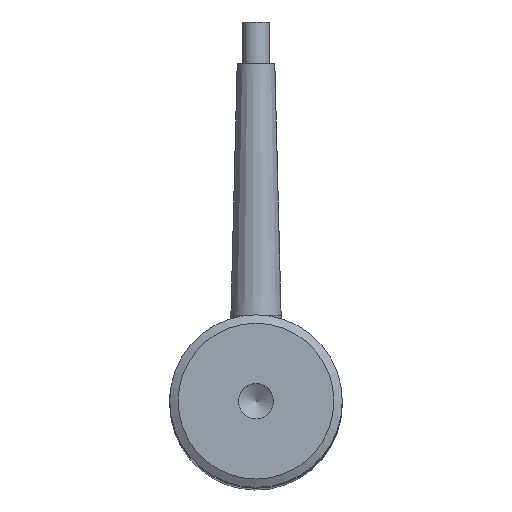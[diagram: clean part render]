
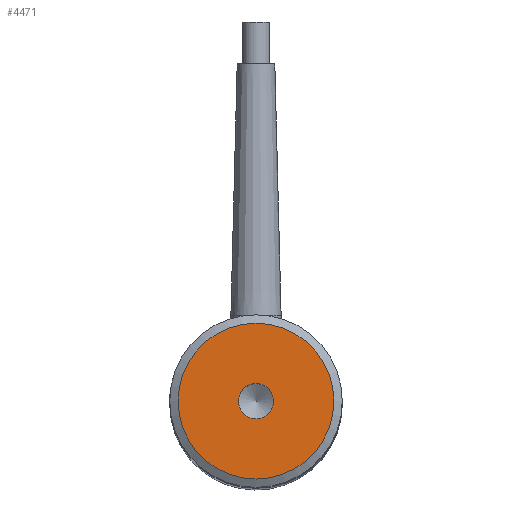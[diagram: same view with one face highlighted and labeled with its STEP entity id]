
A CAD part, top view. The second image highlights one B-rep face of the part: STEP entity #4471.
In plain terms, the highlighted planar face has unit normal (0, 0, 1) as drawn and (0, 0, -1) by its records, which use the part's own axes.
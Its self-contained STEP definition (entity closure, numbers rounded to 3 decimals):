
#361 = CIRCLE ( 'NONE', #7102, 9.3 ) ;
#1216 = DIRECTION ( 'NONE',  ( 0., 0., 1. ) ) ;
#1878 = VERTEX_POINT ( 'NONE', #6325 ) ;
#2028 = ORIENTED_EDGE ( 'NONE', *, *, #2853, .F. ) ;
#2052 = DIRECTION ( 'NONE',  ( 1., 0., 0. ) ) ;
#2568 = EDGE_CURVE ( 'NONE', #1878, #1878, #361, .T. ) ;
#2761 = PLANE ( 'NONE',  #3099 ) ;
#2853 = EDGE_CURVE ( 'NONE', #7781, #7781, #9397, .T. ) ;
#3099 = AXIS2_PLACEMENT_3D ( 'NONE', #7316, #1216, #8063 ) ;
#3639 = ORIENTED_EDGE ( 'NONE', *, *, #2568, .T. ) ;
#4471 = ADVANCED_FACE ( 'NONE', ( #7197, #6112 ), #2761, .F. ) ;
#4551 = EDGE_LOOP ( 'NONE', ( #3639 ) ) ;
#5615 = CARTESIAN_POINT ( 'NONE',  ( -2.1, 0., 0. ) ) ;
#6112 = FACE_BOUND ( 'NONE', #8814, .T. ) ;
#6325 = CARTESIAN_POINT ( 'NONE',  ( 9.3, 0., 0. ) ) ;
#6638 = CARTESIAN_POINT ( 'NONE',  ( 0., 0., 0. ) ) ;
#7019 = DIRECTION ( 'NONE',  ( -1., 0., 0. ) ) ;
#7102 = AXIS2_PLACEMENT_3D ( 'NONE', #6638, #8255, #2052 ) ;
#7197 = FACE_OUTER_BOUND ( 'NONE', #4551, .T. ) ;
#7316 = CARTESIAN_POINT ( 'NONE',  ( 0., 0., 0. ) ) ;
#7452 = AXIS2_PLACEMENT_3D ( 'NONE', #8950, #8988, #7019 ) ;
#7781 = VERTEX_POINT ( 'NONE', #5615 ) ;
#8063 = DIRECTION ( 'NONE',  ( 1., 0., 0. ) ) ;
#8255 = DIRECTION ( 'NONE',  ( 0., 0., -1. ) ) ;
#8814 = EDGE_LOOP ( 'NONE', ( #2028 ) ) ;
#8950 = CARTESIAN_POINT ( 'NONE',  ( 0., 0., 0. ) ) ;
#8988 = DIRECTION ( 'NONE',  ( 0., 0., -1. ) ) ;
#9397 = CIRCLE ( 'NONE', #7452, 2.1 ) ;
